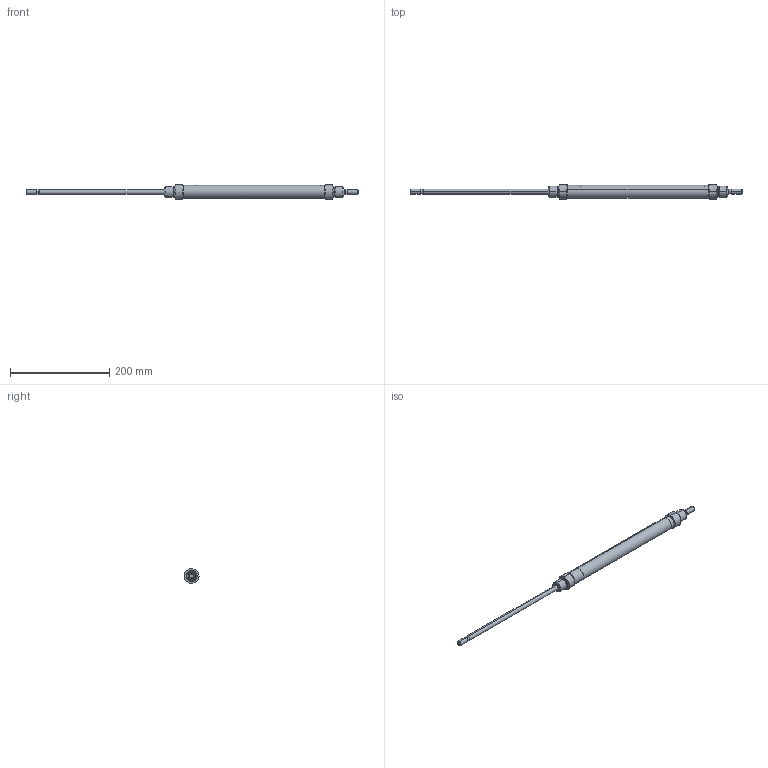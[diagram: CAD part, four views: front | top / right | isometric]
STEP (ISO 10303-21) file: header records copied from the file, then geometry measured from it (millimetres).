
FILE_DESCRIPTION (( 'STEP AP203' ), '1' );
FILE_NAME ('MJ0250250A.step', '2012-10-17T16:41:00', ( '' ), ( '' ), 'SwSTEP 2.0', 'SolidWorks 2012', '' );
FILE_SCHEMA (( 'CONFIG_CONTROL_DESIGN' ));
Length unit declared in the file: millimetre
Products named in the file (1): MJ0250250A
Bounding box: 669 x 28.5 x 30 mm (x, y, z)
Volume: 116048.2 mm3; surface area: 70188.6 mm2
Topology: 1 solids, 2 shells, 124 faces, 274 edges, 172 vertices
Faces by surface type: cylinder 52, plane 40, cone 28, torus 4
Entity records: 3677 total; most frequent: CARTESIAN_POINT 767, DIRECTION 648, ORIENTED_EDGE 548, EDGE_CURVE 274, AXIS2_PLACEMENT_3D 265, VERTEX_POINT 172, EDGE_LOOP 144, CIRCLE 140
